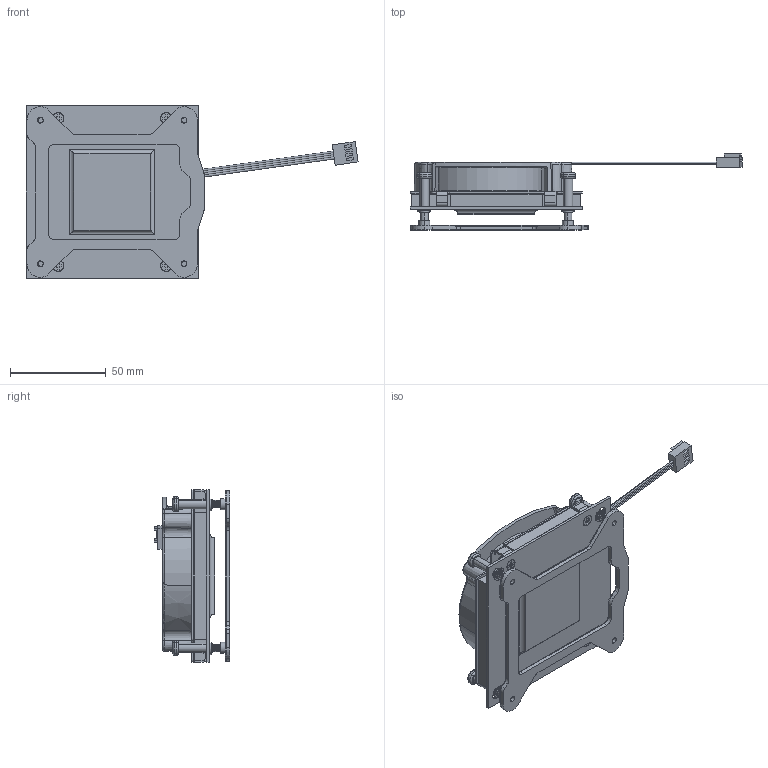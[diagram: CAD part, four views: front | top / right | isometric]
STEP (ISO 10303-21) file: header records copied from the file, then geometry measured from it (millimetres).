
FILE_DESCRIPTION((''),'2;1');
FILE_NAME('RG3124-BF_Z_-002_ME_ASM','2022-11-21T',('User'),(''),'PRO/ENGINEER BY PARAMETRIC TECHNOLOGY CORPORATION, 2017170','PRO/ENGINEER BY PARAMETRIC TECHNOLOGY CORPORATION, 2017170','');
FILE_SCHEMA(('CONFIG_CONTROL_DESIGN'));
Products named in the file (22): PRT0001_7_1_1_12; ASM0001_ASM_5_ASM_ASM_1_ASM_12_ASM; 1-0700030881-A_1_12; E-RING_1_12; SCREW_ASSY_ASM_1_ASM_13_ASM; 17-HARG31X40881_ASM_1_ASM_12_ASM; FAN-COVER_RG3114BF_Z_1_8; M3_8L_1_12; T3_5_10L_1_4; PRT0003_1_1_4; 111_1_1_4; ASM0001_ASM_1_ASM_1_ASM_4_ASM; 8015BLOWER_WITH_BLADE__ASM_1_AS_ASM; LABEL_R30_1_1_12; 4P-PLUGZ_1_4; BD208015MBPA03_FAN_ASSY_ASM_1_A_ASM; 850-BP1156-3_1_3; ADHESIVE_1_12; MYLAR_1_12; 850-BP1156-3_ASSY__ASM_1_ASM_3_ASM; RG3124_BFZ-002_ME_ASM_1_ASM; RG3124-BF_Z_-002_ME_ASM
Assembly tree (30 placements, depth 6):
  RG3124-BF_Z_-002_ME_ASM
    RG3124_BFZ-002_ME_ASM_1_ASM
      17-HARG31X40881_ASM_1_ASM_12_ASM
        ASM0001_ASM_5_ASM_ASM_1_ASM_12_ASM
          PRT0001_7_1_1_12
        SCREW_ASSY_ASM_1_ASM_13_ASM  x4
          1-0700030881-A_1_12
          E-RING_1_12
      FAN-COVER_RG3114BF_Z_1_8
      M3_8L_1_12  x4
      T3_5_10L_1_4  x4
      BD208015MBPA03_FAN_ASSY_ASM_1_A_ASM
        8015BLOWER_WITH_BLADE__ASM_1_AS_ASM
          ASM0001_ASM_1_ASM_1_ASM_4_ASM
            PRT0003_1_1_4
            111_1_1_4
        LABEL_R30_1_1_12
        4P-PLUGZ_1_4
      850-BP1156-3_ASSY__ASM_1_ASM_3_ASM
        850-BP1156-3_1_3
        ADHESIVE_1_12
        MYLAR_1_12
Bounding box: 173.36 x 39.65 x 90 mm (x, y, z)
Volume: 128594.2 mm3; surface area: 80586.6 mm2
Topology: 25 solids, 25 shells, 2974 faces, 8245 edges, 5452 vertices
Faces by surface type: plane 1724, cylinder 732, torus 177, bspline 123, cone 119, extrusion 99
Entity records: 73675 total; most frequent: CARTESIAN_POINT 23107, ORIENTED_EDGE 10622, DIRECTION 9980, EDGE_CURVE 5311, VERTEX_POINT 3514, VECTOR 3348, AXIS2_PLACEMENT_3D 3316, LINE 3249
